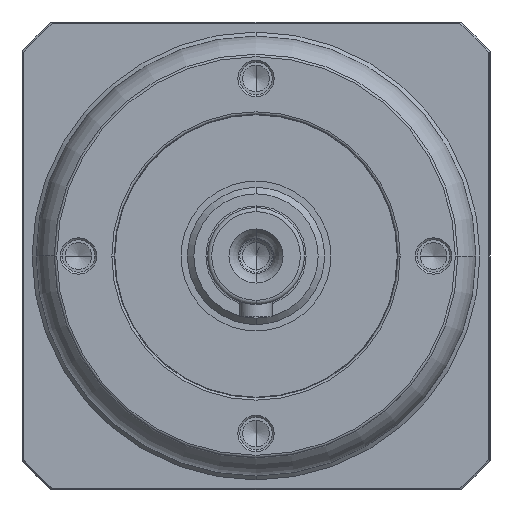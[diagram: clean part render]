
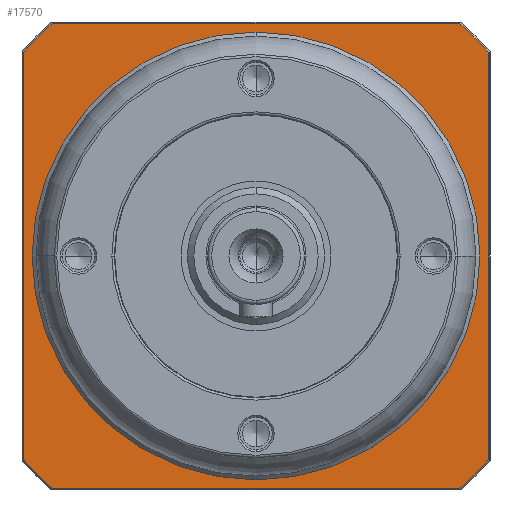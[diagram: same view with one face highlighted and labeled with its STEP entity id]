
A CAD part, left-side view. The second image highlights one B-rep face of the part: STEP entity #17570.
In plain terms, the highlighted planar face has unit normal (-1, 0, 0) as drawn and (0, 0, -1) by its records, which use the part's own axes.
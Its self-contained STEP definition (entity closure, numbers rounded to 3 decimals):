
#16335=CARTESIAN_POINT('',(0.,0.,
2.));
#16336=DIRECTION('',(0.,0.,-1.));
#16337=DIRECTION('',(0.,-1.,0.));
#16338=AXIS2_PLACEMENT_3D('',#16335,#16336,#16337);
#16340=CARTESIAN_POINT('',(0.,0.,
2.));
#16341=DIRECTION('',(0.,0.,-1.));
#16342=DIRECTION('',(0.,1.,0.));
#16343=AXIS2_PLACEMENT_3D('',#16340,#16341,#16342);
#16345=CARTESIAN_POINT('',(0.,0.,2.));
#16346=DIRECTION('',(0.,0.,1.));
#16347=DIRECTION('',(-0.752,-0.659,0.));
#16348=AXIS2_PLACEMENT_3D('',#16345,#16346,#16347);
#16350=DIRECTION('',(1.,0.,0.));
#16351=VECTOR('',#16350,50.496);
#16352=CARTESIAN_POINT('',(-25.248,-28.8,
2.));
#16353=LINE('',#16352,#16351);
#16354=CARTESIAN_POINT('',(0.,0.,2.));
#16355=DIRECTION('',(0.,0.,1.));
#16356=DIRECTION('',(0.659,-0.752,0.));
#16357=AXIS2_PLACEMENT_3D('',#16354,#16355,#16356);
#16359=DIRECTION('',(0.,1.,0.));
#16360=VECTOR('',#16359,50.496);
#16361=CARTESIAN_POINT('',(28.8,-25.248,
2.));
#16362=LINE('',#16361,#16360);
#16363=CARTESIAN_POINT('',(0.,0.,2.));
#16364=DIRECTION('',(0.,0.,1.));
#16365=DIRECTION('',(0.752,0.659,0.));
#16366=AXIS2_PLACEMENT_3D('',#16363,#16364,#16365);
#16368=DIRECTION('',(-1.,0.,0.));
#16369=VECTOR('',#16368,50.496);
#16370=CARTESIAN_POINT('',(25.248,28.8,2.));
#16371=LINE('',#16370,#16369);
#16372=CARTESIAN_POINT('',(0.,0.,2.));
#16373=DIRECTION('',(0.,0.,1.));
#16374=DIRECTION('',(-0.659,0.752,0.));
#16375=AXIS2_PLACEMENT_3D('',#16372,#16373,#16374);
#16377=DIRECTION('',(0.,-1.,0.));
#16378=VECTOR('',#16377,50.496);
#16379=CARTESIAN_POINT('',(-28.8,25.248,
2.));
#16380=LINE('',#16379,#16378);
#17217=CARTESIAN_POINT('',(0.,-27.75,2.));
#17218=CARTESIAN_POINT('',(0.,27.75,2.));
#17219=VERTEX_POINT('',#17217);
#17220=VERTEX_POINT('',#17218);
#17281=CARTESIAN_POINT('',(-28.8,-25.248,2.));
#17282=CARTESIAN_POINT('',(-25.248,-28.8,2.));
#17283=VERTEX_POINT('',#17281);
#17284=VERTEX_POINT('',#17282);
#17289=CARTESIAN_POINT('',(25.248,-28.8,
2.));
#17290=VERTEX_POINT('',#17289);
#17293=CARTESIAN_POINT('',(28.8,-25.248,2.));
#17294=VERTEX_POINT('',#17293);
#17297=CARTESIAN_POINT('',(28.8,25.248,2.));
#17298=VERTEX_POINT('',#17297);
#17301=CARTESIAN_POINT('',(25.248,28.8,2.));
#17302=VERTEX_POINT('',#17301);
#17305=CARTESIAN_POINT('',(-25.248,28.8,
2.));
#17306=VERTEX_POINT('',#17305);
#17311=CARTESIAN_POINT('',(-28.8,25.248,2.));
#17312=VERTEX_POINT('',#17311);
#17542=CARTESIAN_POINT('',(0.,0.,2.));
#17543=DIRECTION('',(0.,0.,1.));
#17544=DIRECTION('',(0.,1.,0.));
#17545=AXIS2_PLACEMENT_3D('',#17542,#17543,#17544);
#17546=PLANE('',#17545);
#17548=ORIENTED_EDGE('',*,*,#17547,.T.);
#17550=ORIENTED_EDGE('',*,*,#17549,.T.);
#17552=ORIENTED_EDGE('',*,*,#17551,.T.);
#17554=ORIENTED_EDGE('',*,*,#17553,.T.);
#17556=ORIENTED_EDGE('',*,*,#17555,.T.);
#17558=ORIENTED_EDGE('',*,*,#17557,.T.);
#17560=ORIENTED_EDGE('',*,*,#17559,.T.);
#17562=ORIENTED_EDGE('',*,*,#17561,.T.);
#17563=EDGE_LOOP('',(#17548,#17550,#17552,#17554,#17556,#17558,#17560,#17562));
#17564=FACE_OUTER_BOUND('',#17563,.F.);
#17566=ORIENTED_EDGE('',*,*,#17565,.T.);
#17567=ORIENTED_EDGE('',*,*,#17532,.T.);
#17568=EDGE_LOOP('',(#17566,#17567));
#17569=FACE_BOUND('',#17568,.F.);
#17570=ADVANCED_FACE('',(#17564,#17569),#17546,.F.);
#16339=CIRCLE('',#16338,27.75);
#16344=CIRCLE('',#16343,27.75);
#16349=CIRCLE('',#16348,38.3);
#16358=CIRCLE('',#16357,38.3);
#16367=CIRCLE('',#16366,38.3);
#16376=CIRCLE('',#16375,38.3);
#17532=EDGE_CURVE('',#17220,#17219,#16344,.T.);
#17547=EDGE_CURVE('',#17283,#17284,#16349,.T.);
#17549=EDGE_CURVE('',#17284,#17290,#16353,.T.);
#17551=EDGE_CURVE('',#17290,#17294,#16358,.T.);
#17553=EDGE_CURVE('',#17294,#17298,#16362,.T.);
#17555=EDGE_CURVE('',#17298,#17302,#16367,.T.);
#17557=EDGE_CURVE('',#17302,#17306,#16371,.T.);
#17559=EDGE_CURVE('',#17306,#17312,#16376,.T.);
#17561=EDGE_CURVE('',#17312,#17283,#16380,.T.);
#17565=EDGE_CURVE('',#17219,#17220,#16339,.T.);
